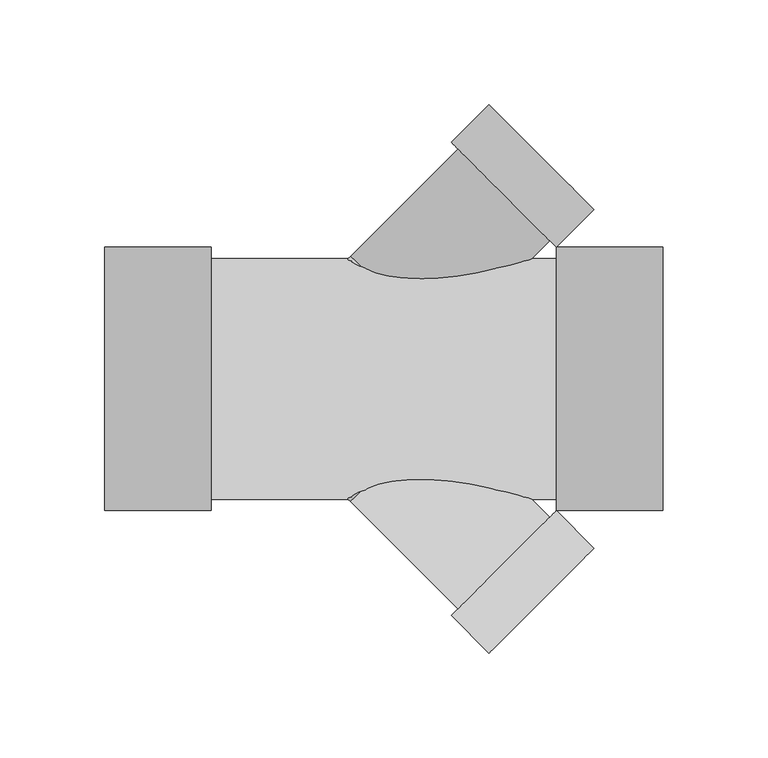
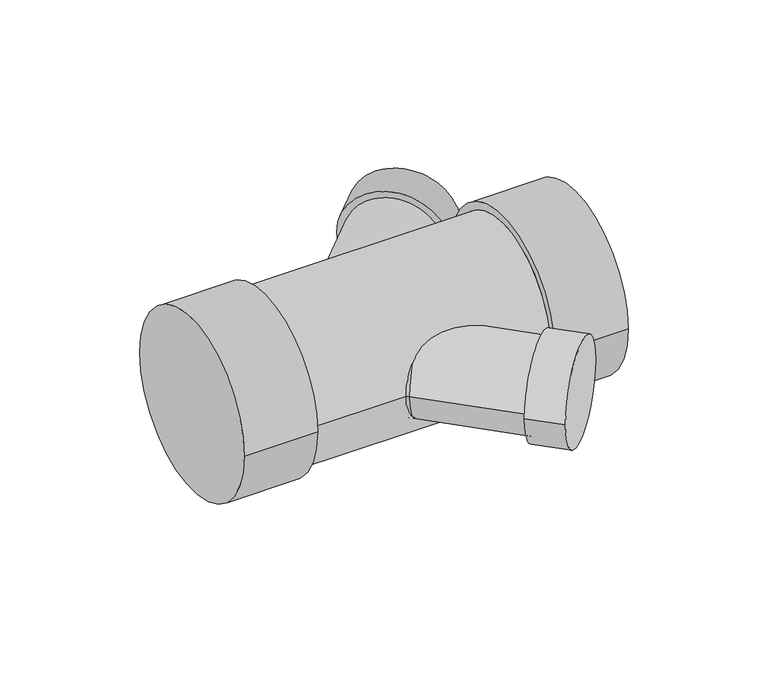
"""IFC4 building model written with IfcOpenShell, lengths in millimetres: pipe fitting geometry, M_Sanitario con te doble con reducción - PVC - Serie 40 - DWV : Estándar."""

from ifc_helpers import new_model, si_unit, point, frame, origin, place, context, project, spatial, circle_curve, ellipse_curve, trimmed, source, transform, mapped, element, save
from ifc_brep_helpers import plane_surface, cylinder_surface, revolved_surface, advanced_brep


def pipe_fitting_815a0334(model_context):
    return source(origin(), model_context, "Body", "AdvancedBrep", [
        advanced_brep(
        [(130.9018065, -80.8116216, 0.0), (80.8116216, -130.9018065, 0.0), (112.9412942, -62.8511094, 0.0), (62.8511094, -112.9412942, 0.0), (109.8024141, -65.9899895, 0.0), (65.9899895, -109.8024141, 0.0), (58.5512699, -14.7388454, 0.0), (14.7388454, -58.5512699, 0.0), (-51.8239375, -30.9800625, 0.0), (-51.8239375, 30.9800625, 0.0)],
        [
            (0, 1, circle_curve(frame((105.856714, -105.856714, 0.0), z_axis=(0.7071067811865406, -0.7071067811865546, 0.0), x_axis=(-0.7071067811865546, -0.7071067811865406, 0.0)), 35.4191094)),
            (1, 0, circle_curve(frame((105.856714, -105.856714, 0.0), z_axis=(0.7071067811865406, -0.7071067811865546, 0.0), x_axis=(-0.7071067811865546, -0.7071067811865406, 0.0)), 35.4191094)),
            (2, 3, circle_curve(frame((87.8962018, -87.8962018, 0.0), z_axis=(-0.7071067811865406, 0.7071067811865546, 0.0), x_axis=(-0.7071067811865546, -0.7071067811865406, 0.0)), 35.4191094)),
            (3, 2, circle_curve(frame((87.8962018, -87.8962018, 0.0), z_axis=(-0.7071067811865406, 0.7071067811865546, 0.0), x_axis=(-0.7071067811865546, -0.7071067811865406, 0.0)), 35.4191094)),
            (4, 5, circle_curve(frame((87.8962018, -87.8962018, 0.0), z_axis=(0.7071067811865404, -0.7071067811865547, 0.0), x_axis=(-0.7071067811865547, -0.7071067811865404, 0.0)), 30.9800625)),
            (5, 4, circle_curve(frame((87.8962018, -87.8962018, 0.0), z_axis=(0.7071067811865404, -0.7071067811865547, 0.0), x_axis=(-0.7071067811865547, -0.7071067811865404, 0.0)), 30.9800625)),
            (0, 2),
            (3, 1),
            (4, 6),
            (6, 7, circle_curve(frame((36.6450576, -36.6450576, 0.0), z_axis=(0.7071067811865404, -0.7071067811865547, 0.0), x_axis=(-0.7071067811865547, -0.7071067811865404, 0.0)), 30.9800625)),
            (7, 5),
            (7, 6, circle_curve(frame((36.6450576, -36.6450576, 0.0), z_axis=(0.7071067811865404, -0.7071067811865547, 0.0), x_axis=(-0.7071067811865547, -0.7071067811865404, 0.0)), 30.9800625)),
            (8, 9, circle_curve(frame((-51.8239375, 0.0, 0.0), z_axis=(-1.0, 0.0, 0.0), x_axis=(0.0, 1.0, 0.0)), 30.9800625)),
            (9, 8, circle_curve(frame((-51.8239375, 0.0, 0.0), z_axis=(-1.0, 0.0, 0.0), x_axis=(0.0, 1.0, 0.0)), 30.9800625)),
            (8, 7, circle_curve(frame((-51.8239375, -125.1140528, 0.0), z_axis=(0.0, 0.0, -1.0), x_axis=(0.0, 1.0, 0.0)), 94.1339903)),
            (6, 9, circle_curve(frame((-51.8239375, -125.1140528, 0.0), z_axis=(0.0, 0.0, 1.0), x_axis=(0.0, 1.0, 0.0)), 156.0941153)),
        ],
        [
            plane_surface(frame((105.856714, -105.856714, 0.0), z_axis=(0.7071067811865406, -0.7071067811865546, 0.0), x_axis=(0.0, 0.0, 1.0))),
            plane_surface(frame((87.8962018, -87.8962018, 0.0), z_axis=(-0.7071067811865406, 0.7071067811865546, 0.0), x_axis=(0.0, 0.0, 1.0))),
            cylinder_surface(frame((105.856714, -105.856714, 0.0), z_axis=(0.7071067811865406, -0.7071067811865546, 0.0), x_axis=(-0.7071067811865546, -0.7071067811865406, 0.0)), 35.4191094),
            cylinder_surface(frame((105.856714, -105.856714, 0.0), z_axis=(0.7071067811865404, -0.7071067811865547, 0.0), x_axis=(-0.7071067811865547, -0.7071067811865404, 0.0)), 30.9800625),
            plane_surface(frame((-51.8239375, 0.0, 0.0), z_axis=(-1.0, 0.0, 0.0), x_axis=(0.0, 0.0, 1.0))),
            revolved_surface(trimmed(ellipse_curve(frame((-51.8239375, 0.0, 0.0), z_axis=(-1.0, 0.0, 0.0), x_axis=(0.0, 1.0, 0.0)), 30.9800625, 30.9800625), [point((-51.8239375, -30.9800625, 0.0))], [point((-51.8239375, 30.9800625, 0.0))], True, "CARTESIAN"), (-51.8239375, -125.1140528, 0.0), (0.0, 0.0, -1.0)),
            revolved_surface(trimmed(ellipse_curve(frame((-51.8239375, 0.0, 0.0), z_axis=(-1.0, 0.0, 0.0), x_axis=(0.0, 1.0, 0.0)), 30.9800625, 30.9800625), [point((-51.8239375, 30.9800625, 0.0))], [point((-51.8239375, -30.9800625, 0.0))], True, "CARTESIAN"), (-51.8239375, -125.1140528, 0.0), (0.0, 0.0, -1.0)),
        ],
        [
            (0, [[1, 2]]),
            (1, [[3, 4], [5, 6]]),
            (2, [[-1, 7, -4, 8]]),
            (2, [[-2, -8, -3, -7]]),
            (3, [[9, 10, 11, -5]]),
            (3, [[-9, -6, -11, 12]]),
            (4, [[13, 14]]),
            (5, [[-13, 15, -10, 16]]),
            (6, [[-14, -16, -12, -15]]),
        ],
    ),
        advanced_brep(
        [(-51.8239375, -30.9800625, 0.0), (-51.8239375, 30.9800625, 0.0), (58.5512699, 14.7388454, 0.0), (36.6450576, 36.6450576, 30.9800625), (14.7388454, 58.5512699, 0.0), (36.6450576, 36.6450576, -30.9800625), (80.8116216, 130.9018065, 0.0), (130.9018065, 80.8116216, 0.0), (109.8024141, 65.9899895, 0.0), (65.9899895, 109.8024141, 0.0), (62.8511094, 112.9412942, 0.0), (112.9412942, 62.8511094, 0.0)],
        [
            (0, 1, circle_curve(frame((-51.8239375, 0.0, 0.0), z_axis=(-1.0, 0.0, 0.0), x_axis=(0.0, 1.0, 0.0)), 30.9800625)),
            (1, 0, circle_curve(frame((-51.8239375, 0.0, 0.0), z_axis=(-1.0, 0.0, 0.0), x_axis=(0.0, 1.0, 0.0)), 30.9800625)),
            (0, 2, circle_curve(frame((-51.8239375, 125.1140528, 0.0), z_axis=(0.0, 0.0, 1.0), x_axis=(0.0, -1.0, 0.0)), 156.0941153)),
            (2, 3, circle_curve(frame((36.6450576, 36.6450576, 0.0), z_axis=(-0.7071067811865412, -0.7071067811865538, 0.0), x_axis=(-0.7071067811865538, 0.7071067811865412, 0.0)), 30.9800625)),
            (3, 4, circle_curve(frame((36.6450576, 36.6450576, 0.0), z_axis=(-0.7071067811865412, -0.7071067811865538, 0.0), x_axis=(-0.7071067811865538, 0.7071067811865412, 0.0)), 30.9800625)),
            (4, 1, circle_curve(frame((-51.8239375, 125.1140528, 0.0), z_axis=(0.0, 0.0, -1.0), x_axis=(0.0, -1.0, 0.0)), 94.1339903)),
            (4, 5, circle_curve(frame((36.6450576, 36.6450576, 0.0), z_axis=(-0.7071067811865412, -0.7071067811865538, 0.0), x_axis=(-0.7071067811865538, 0.7071067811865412, 0.0)), 30.9800625)),
            (5, 2, circle_curve(frame((36.6450576, 36.6450576, 0.0), z_axis=(-0.7071067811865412, -0.7071067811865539, 0.0), x_axis=(-0.7071067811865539, 0.7071067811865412, 0.0)), 30.9800625)),
            (6, 7, circle_curve(frame((105.856714, 105.856714, 0.0), z_axis=(0.7071067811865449, 0.7071067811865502, 0.0), x_axis=(0.7071067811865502, -0.7071067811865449, 0.0)), 35.4191094)),
            (7, 6, circle_curve(frame((105.856714, 105.856714, 0.0), z_axis=(0.7071067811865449, 0.7071067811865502, 0.0), x_axis=(0.7071067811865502, -0.7071067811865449, 0.0)), 35.4191094)),
            (2, 8),
            (8, 9, circle_curve(frame((87.8962018, 87.8962018, 0.0), z_axis=(-0.7071067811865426, -0.7071067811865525, 0.0), x_axis=(-0.7071067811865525, 0.7071067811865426, 0.0)), 30.9800625)),
            (9, 4),
            (9, 8, circle_curve(frame((87.8962018, 87.8962018, 0.0), z_axis=(-0.7071067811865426, -0.7071067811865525, 0.0), x_axis=(-0.7071067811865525, 0.7071067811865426, 0.0)), 30.9800625)),
            (10, 11, circle_curve(frame((87.8962018, 87.8962018, 0.0), z_axis=(-0.7071067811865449, -0.7071067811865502, 0.0), x_axis=(0.7071067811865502, -0.7071067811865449, 0.0)), 35.4191094)),
            (11, 10, circle_curve(frame((87.8962018, 87.8962018, 0.0), z_axis=(-0.7071067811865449, -0.7071067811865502, 0.0), x_axis=(0.7071067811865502, -0.7071067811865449, 0.0)), 35.4191094)),
            (6, 10),
            (11, 7),
        ],
        [
            plane_surface(frame((-51.8239375, 0.0, 0.0), z_axis=(-1.0, 0.0, 0.0), x_axis=(0.0, 0.0, 1.0))),
            revolved_surface(trimmed(ellipse_curve(frame((-51.8239375, 0.0, 0.0), z_axis=(-1.0, 0.0, 0.0), x_axis=(0.0, 1.0, 0.0)), 30.9800625, 30.9800625), [point((-51.8239375, -30.9800625, 0.0))], [point((-51.8239375, 30.9800625, 0.0))], True, "CARTESIAN"), (-51.8239375, 125.1140528, 0.0), (0.0, 0.0, 1.0)),
            revolved_surface(trimmed(ellipse_curve(frame((-51.8239375, 0.0, 0.0), z_axis=(-1.0, 0.0, 0.0), x_axis=(0.0, 1.0, 0.0)), 30.9800625, 30.9800625), [point((-51.8239375, 30.9800625, 0.0))], [point((-51.8239375, -30.9800625, 0.0))], True, "CARTESIAN"), (-51.8239375, 125.1140528, 0.0), (0.0, 0.0, 1.0)),
            plane_surface(frame((105.856714, 105.856714, 0.0), z_axis=(0.7071067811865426, 0.7071067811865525, 0.0), x_axis=(0.0, 0.0, 1.0))),
            cylinder_surface(frame((36.6450576, 36.6450576, 0.0), z_axis=(-0.7071067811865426, -0.7071067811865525, 0.0), x_axis=(-0.7071067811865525, 0.7071067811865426, 0.0)), 30.9800625),
            plane_surface(frame((87.8962018, 87.8962018, 0.0), z_axis=(-0.7071067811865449, -0.7071067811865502, 0.0), x_axis=(0.0, 0.0, 1.0))),
            cylinder_surface(frame((105.856714, 105.856714, 0.0), z_axis=(0.7071067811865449, 0.7071067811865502, 0.0), x_axis=(0.7071067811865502, -0.7071067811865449, 0.0)), 35.4191094),
        ],
        [
            (0, [[1, 2]]),
            (1, [[-1, 3, 4, 5, 6]]),
            (2, [[-2, -6, 7, 8, -3]]),
            (3, [[9, 10]]),
            (4, [[-4, 11, 12, 13, -5]]),
            (4, [[-8, -7, -13, 14, -11]]),
            (5, [[15, 16], [-12, -14]]),
            (6, [[-9, 17, -16, 18]]),
            (6, [[-10, -18, -15, -17]]),
        ],
    ),
        advanced_brep(
        [(-102.6239375, -62.8511094, 0.0), (-102.6239375, 62.8511094, 0.0), (-51.8239375, -62.8511094, 0.0), (-51.8239375, 62.8511094, 0.0), (-51.8239375, 57.3960625, 0.0), (-51.8239375, -57.3960625, 0.0), (112.9412942, 57.3960625, 0.0), (112.9412942, -57.3960625, 0.0), (112.9412942, -62.8511094, 0.0), (112.9412942, 62.8511094, 0.0), (163.7412942, -62.8511094, 0.0), (163.7412942, 62.8511094, 0.0)],
        [
            (0, 1, circle_curve(frame((-102.6239375, 0.0, 0.0), z_axis=(-1.0, 0.0, 0.0), x_axis=(0.0, 1.0, 0.0)), 62.8511094)),
            (1, 0, circle_curve(frame((-102.6239375, 0.0, 0.0), z_axis=(-1.0, 0.0, 0.0), x_axis=(0.0, 1.0, 0.0)), 62.8511094)),
            (2, 3, circle_curve(frame((-51.8239375, 0.0, 0.0), z_axis=(1.0, 0.0, 0.0), x_axis=(0.0, 1.0, 0.0)), 62.8511094)),
            (3, 2, circle_curve(frame((-51.8239375, 0.0, 0.0), z_axis=(1.0, 0.0, 0.0), x_axis=(0.0, 1.0, 0.0)), 62.8511094)),
            (4, 5, circle_curve(frame((-51.8239375, 0.0, 0.0), z_axis=(-1.0, 0.0, 0.0), x_axis=(0.0, 0.0, -1.0)), 57.3960625)),
            (5, 4, circle_curve(frame((-51.8239375, 0.0, 0.0), z_axis=(-1.0, 0.0, 0.0), x_axis=(0.0, 0.0, 1.0)), 57.3960625)),
            (0, 2),
            (3, 1),
            (4, 6),
            (6, 7, circle_curve(frame((112.9412942, 0.0, 0.0), z_axis=(-1.0, 0.0, 0.0), x_axis=(0.0, 0.0, -1.0)), 57.3960625)),
            (7, 5),
            (7, 6, circle_curve(frame((112.9412942, 0.0, 0.0), z_axis=(-1.0, 0.0, 0.0), x_axis=(0.0, 0.0, 1.0)), 57.3960625)),
            (8, 9, circle_curve(frame((112.9412942, 0.0, 0.0), z_axis=(-1.0, 0.0, 0.0), x_axis=(0.0, 1.0, 0.0)), 62.8511094)),
            (9, 8, circle_curve(frame((112.9412942, 0.0, 0.0), z_axis=(-1.0, 0.0, 0.0), x_axis=(0.0, 1.0, 0.0)), 62.8511094)),
            (10, 11, circle_curve(frame((163.7412942, 0.0, 0.0), z_axis=(1.0, 0.0, 0.0), x_axis=(0.0, 1.0, 0.0)), 62.8511094)),
            (11, 10, circle_curve(frame((163.7412942, 0.0, 0.0), z_axis=(1.0, 0.0, 0.0), x_axis=(0.0, 1.0, 0.0)), 62.8511094)),
            (8, 10),
            (11, 9),
        ],
        [
            plane_surface(frame((-102.6239375, 0.0, 0.0), z_axis=(-1.0, 0.0, 0.0), x_axis=(0.0, 0.0, 1.0))),
            plane_surface(frame((-51.8239375, 0.0, 0.0), z_axis=(1.0, 0.0, 0.0), x_axis=(0.0, 0.0, 1.0))),
            cylinder_surface(frame((-102.6239375, 0.0, 0.0), z_axis=(-1.0, 0.0, 0.0), x_axis=(0.0, 1.0, 0.0)), 62.8511094),
            cylinder_surface(frame((-51.8239375, 0.0, 0.0), z_axis=(1.0, 0.0, 0.0), x_axis=(0.0, 0.0, -1.0)), 57.3960625),
            cylinder_surface(frame((-51.8239375, 0.0, 0.0), z_axis=(1.0, 0.0, 0.0), x_axis=(0.0, 0.0, 1.0)), 57.3960625),
            plane_surface(frame((112.9412942, 0.0, 0.0), z_axis=(-1.0, 0.0, 0.0), x_axis=(0.0, 0.0, 1.0))),
            plane_surface(frame((163.7412942, 0.0, 0.0), z_axis=(1.0, 0.0, 0.0), x_axis=(0.0, 0.0, 1.0))),
            cylinder_surface(frame((112.9412942, 0.0, 0.0), z_axis=(-1.0, 0.0, 0.0), x_axis=(0.0, 1.0, 0.0)), 62.8511094),
        ],
        [
            (0, [[1, 2]]),
            (1, [[3, 4], [5, 6]]),
            (2, [[-1, 7, -4, 8]]),
            (2, [[-2, -8, -3, -7]]),
            (3, [[9, 10, 11, -5]]),
            (4, [[-9, -6, -11, 12]]),
            (5, [[13, 14], [-10, -12]]),
            (6, [[15, 16]]),
            (7, [[-13, 17, -16, 18]]),
            (7, [[-14, -18, -15, -17]]),
        ],
    ),
    ])


if __name__ == "__main__":
    model = new_model("IFC4")
    model_context = context("Model", 3, world=origin())
    ifc_project = project(units=[si_unit("LENGTHUNIT", "METRE", prefix="MILLI")], contexts=[model_context])
    site = spatial("IfcSite", under=ifc_project)
    building = spatial("IfcBuilding", under=site)
    placement = place(None, origin())
    pipe_fitting_shape = pipe_fitting_815a0334(model_context)
    element("IfcPipeFitting", 1, ObjectType="M_Sanitario con te doble con reducción - PVC - Serie 40 - DWV : Estándar", at=placement, inside=building, context=model_context, shape_type="MappedRepresentation", body=[
        mapped(pipe_fitting_shape, transform((0.0, 0.0, 0.0), x_axis=(1.0, 0.0, 0.0), y_axis=(0.0, 1.0, 0.0), z_axis=(0.0, 0.0, 1.0))),
    ])
    save(model, "model.ifc")
